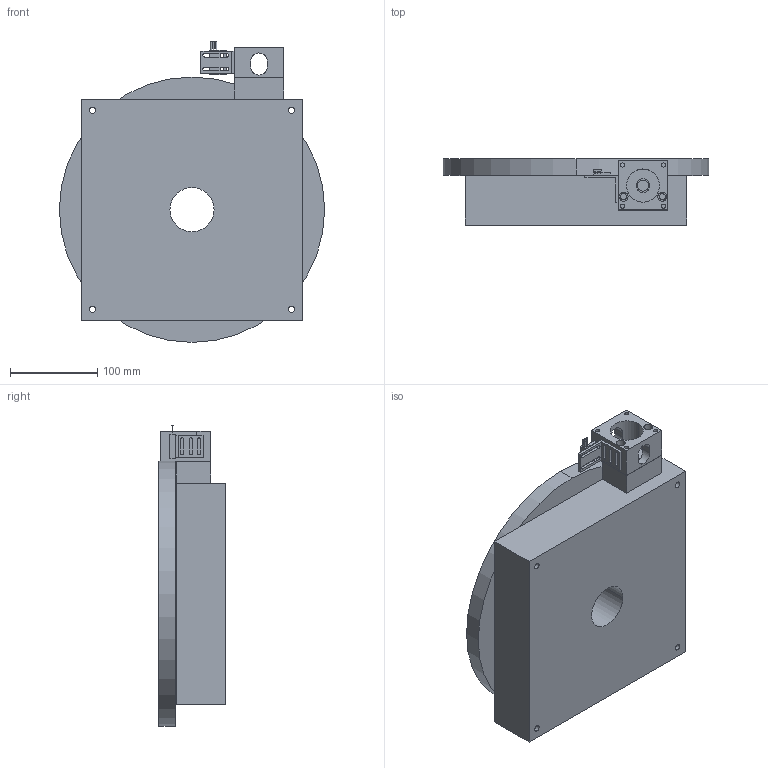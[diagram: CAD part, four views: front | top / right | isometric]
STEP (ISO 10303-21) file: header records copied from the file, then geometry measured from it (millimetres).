
FILE_DESCRIPTION((''),'2;1');
FILE_NAME('E212-ROTARY_ASM','2005-02-18T',('BF20108'),(''),'PRO/ENGINEER BY PARAMETRIC TECHNOLOGY CORPORATION, 2004400','PRO/ENGINEER BY PARAMETRIC TECHNOLOGY CORPORATION, 2004400','');
FILE_SCHEMA(('CONFIG_CONTROL_DESIGN'));
Length unit declared in the file: inch
Products named in the file (8): E10RO-BASE; E12RO-TOP; SPACER-270; E-0176-01; 000-4457-SW-BRKT; 003-1145-SWITCH; ROTARY-TBL-HOME-SW_ASM; E212-ROTARY_ASM
Assembly tree (7 placements, depth 3):
  E212-ROTARY_ASM
    E10RO-BASE
    E12RO-TOP
    SPACER-270
    E-0176-01
    ROTARY-TBL-HOME-SW_ASM
      000-4457-SW-BRKT
      003-1145-SWITCH
Bounding box: 304.8 x 76.25 x 345.53 mm (x, y, z)
Volume: 4970531.6 mm3; surface area: 402426.3 mm2
Topology: 6 solids, 6 shells, 155 faces, 400 edges, 266 vertices
Faces by surface type: cylinder 90, plane 65
Entity records: 5224 total; most frequent: DIRECTION 916, CARTESIAN_POINT 914, ORIENTED_EDGE 800, EDGE_CURVE 400, AXIS2_PLACEMENT_3D 350, VERTEX_POINT 266, EDGE_LOOP 230, VECTOR 216
